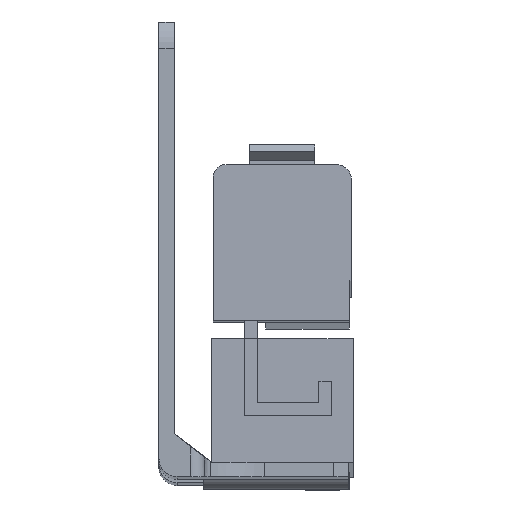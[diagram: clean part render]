
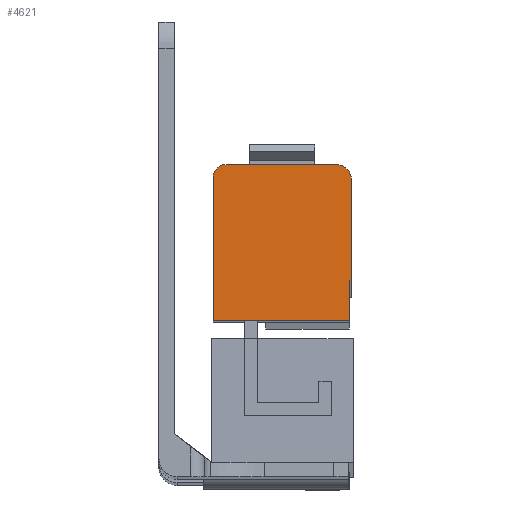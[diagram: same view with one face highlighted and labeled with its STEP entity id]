
A CAD part, front view. The second image highlights one B-rep face of the part: STEP entity #4621.
In plain terms, the highlighted planar face has unit normal (0, -1, 0.005).
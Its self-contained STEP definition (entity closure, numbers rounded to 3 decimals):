
#522 = ORIENTED_EDGE ( 'NONE', *, *, #2607, .T. ) ;
#523 = ORIENTED_EDGE ( 'NONE', *, *, #2604, .T. ) ;
#524 = ORIENTED_EDGE ( 'NONE', *, *, #2600, .T. ) ;
#525 = ORIENTED_EDGE ( 'NONE', *, *, #2597, .T. ) ;
#526 = ORIENTED_EDGE ( 'NONE', *, *, #2593, .T. ) ;
#527 = ORIENTED_EDGE ( 'NONE', *, *, #2589, .T. ) ;
#528 = ORIENTED_EDGE ( 'NONE', *, *, #2588, .T. ) ;
#529 = ORIENTED_EDGE ( 'NONE', *, *, #2592, .T. ) ;
#1330 = EDGE_LOOP ( 'NONE', ( #522, #523, #524, #525, #526, #527, #528, #529 ) ) ;
#1480 = CARTESIAN_POINT ( 'NONE',  ( 26.25, -21.787, -26.178 ) ) ;
#1481 = DIRECTION ( 'NONE',  ( 0., 0.005, 1. ) ) ;
#1482 = CARTESIAN_POINT ( 'NONE',  ( 26.25, -21.787, -26.178 ) ) ;
#1483 = DIRECTION ( 'NONE',  ( 1., 0., 0. ) ) ;
#1488 = CARTESIAN_POINT ( 'NONE',  ( 7.5, -21.758, -20.678 ) ) ;
#1489 = DIRECTION ( 'NONE',  ( 1., 0., 0. ) ) ;
#1490 = CARTESIAN_POINT ( 'NONE',  ( 7.5, -21.683, -6.428 ) ) ;
#1491 = DIRECTION ( 'NONE',  ( 0., -0.005, -1. ) ) ;
#1498 = CARTESIAN_POINT ( 'NONE',  ( 9.25, -21.683, -6.428 ) ) ;
#1499 = DIRECTION ( 'NONE',  ( 0., -1., 0.005 ) ) ;
#1500 = DIRECTION ( 'NONE',  ( 0., -0.005, -1. ) ) ;
#1505 = CARTESIAN_POINT ( 'NONE',  ( 9.25, -21.674, -4.678 ) ) ;
#1506 = DIRECTION ( 'NONE',  ( -1., 0., 0. ) ) ;
#1513 = CARTESIAN_POINT ( 'NONE',  ( 24.45, -21.685, -6.728 ) ) ;
#1514 = DIRECTION ( 'NONE',  ( 0., -1., 0.005 ) ) ;
#1515 = DIRECTION ( 'NONE',  ( 0., 0.005, 1. ) ) ;
#1520 = CARTESIAN_POINT ( 'NONE',  ( 26.5, -21.685, -6.728 ) ) ;
#1521 = DIRECTION ( 'NONE',  ( 0., 0.005, 1. ) ) ;
#1587 = CARTESIAN_POINT ( 'NONE',  ( 24.45, -21.674, -4.678 ) ) ;
#1591 = CARTESIAN_POINT ( 'NONE',  ( 9.25, -21.674, -4.678 ) ) ;
#1623 = CARTESIAN_POINT ( 'NONE',  ( 7.5, -21.683, -6.428 ) ) ;
#1661 = CARTESIAN_POINT ( 'NONE',  ( 26.5, -21.685, -6.728 ) ) ;
#1663 = CARTESIAN_POINT ( 'NONE',  ( 26.5, -21.758, -20.678 ) ) ;
#1710 = CARTESIAN_POINT ( 'NONE',  ( 26.25, -21.787, -26.178 ) ) ;
#1771 = CARTESIAN_POINT ( 'NONE',  ( 26.25, -21.758, -20.678 ) ) ;
#1778 = CARTESIAN_POINT ( 'NONE',  ( 7.5, -21.787, -26.178 ) ) ;
#2067 = PLANE ( 'NONE',  #2788 ) ;
#2068 = CARTESIAN_POINT ( 'NONE',  ( 9.25, -21.683, -6.428 ) ) ;
#2069 = DIRECTION ( 'NONE',  ( 0., -1., 0.005 ) ) ;
#2070 = DIRECTION ( 'NONE',  ( 0., -0.005, -1. ) ) ;
#2588 = EDGE_CURVE ( 'NONE', #3857, #3929, #3049, .T. ) ;
#2589 = EDGE_CURVE ( 'NONE', #3938, #3857, #3051, .T. ) ;
#2592 = EDGE_CURVE ( 'NONE', #3929, #3776, #3057, .T. ) ;
#2593 = EDGE_CURVE ( 'NONE', #3727, #3938, #3059, .T. ) ;
#2597 = EDGE_CURVE ( 'NONE', #3679, #3727, #3068, .T. ) ;
#2600 = EDGE_CURVE ( 'NONE', #3675, #3679, #3072, .T. ) ;
#2604 = EDGE_CURVE ( 'NONE', #3774, #3675, #3081, .T. ) ;
#2607 = EDGE_CURVE ( 'NONE', #3776, #3774, #3085, .T. ) ;
#2719 = AXIS2_PLACEMENT_3D ( 'NONE', #1498, #1499, #1500 ) ;
#2720 = AXIS2_PLACEMENT_3D ( 'NONE', #1513, #1514, #1515 ) ;
#2788 = AXIS2_PLACEMENT_3D ( 'NONE', #2068, #2069, #2070 ) ;
#3049 = LINE ( 'NONE', #1480, #3050 ) ;
#3050 = VECTOR ( 'NONE', #1481, 1000. ) ;
#3051 = LINE ( 'NONE', #1482, #3052 ) ;
#3052 = VECTOR ( 'NONE', #1483, 1000. ) ;
#3057 = LINE ( 'NONE', #1488, #3058 ) ;
#3058 = VECTOR ( 'NONE', #1489, 1000. ) ;
#3059 = LINE ( 'NONE', #1490, #3060 ) ;
#3060 = VECTOR ( 'NONE', #1491, 1000. ) ;
#3068 = CIRCLE ( 'NONE', #2719, 1.75 ) ;
#3072 = LINE ( 'NONE', #1505, #3073 ) ;
#3073 = VECTOR ( 'NONE', #1506, 1000. ) ;
#3081 = CIRCLE ( 'NONE', #2720, 2.05 ) ;
#3085 = LINE ( 'NONE', #1520, #3086 ) ;
#3086 = VECTOR ( 'NONE', #1521, 1000. ) ;
#3227 = FACE_OUTER_BOUND ( 'NONE', #1330, .T. ) ;
#3675 = VERTEX_POINT ( 'NONE', #1587 ) ;
#3679 = VERTEX_POINT ( 'NONE', #1591 ) ;
#3727 = VERTEX_POINT ( 'NONE', #1623 ) ;
#3774 = VERTEX_POINT ( 'NONE', #1661 ) ;
#3776 = VERTEX_POINT ( 'NONE', #1663 ) ;
#3857 = VERTEX_POINT ( 'NONE', #1710 ) ;
#3929 = VERTEX_POINT ( 'NONE', #1771 ) ;
#3938 = VERTEX_POINT ( 'NONE', #1778 ) ;
#4621 = ADVANCED_FACE ( 'NONE', ( #3227 ), #2067, .T. ) ;
